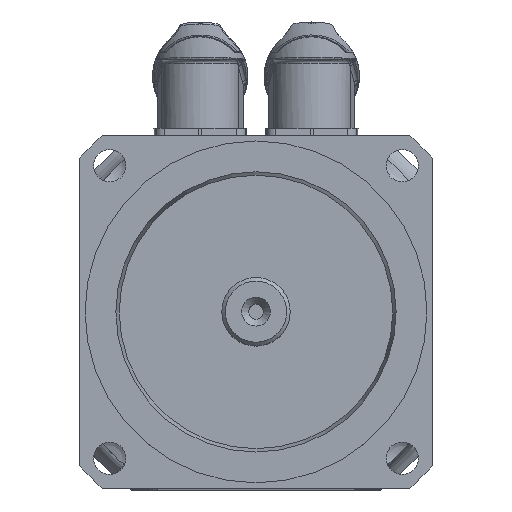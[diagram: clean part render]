
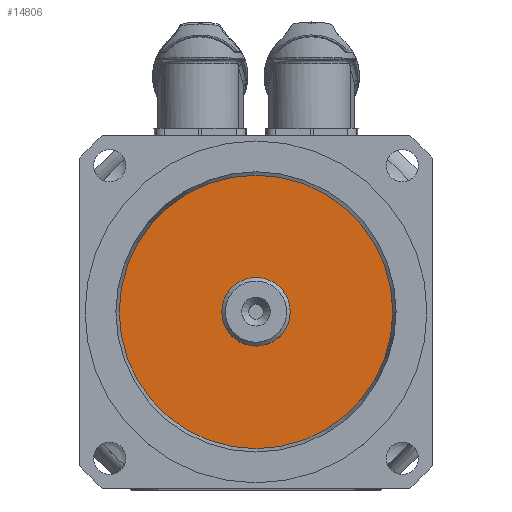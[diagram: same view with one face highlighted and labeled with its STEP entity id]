
A CAD part, top view. The second image highlights one B-rep face of the part: STEP entity #14806.
In plain terms, the highlighted planar face has unit normal (0, 0, 1).
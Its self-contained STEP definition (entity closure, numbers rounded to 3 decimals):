
#3595=FACE_BOUND($,#3841,.T.);
#3596=FACE_BOUND($,#3842,.T.);
#3841=EDGE_LOOP($,(#9391));
#3842=EDGE_LOOP($,(#9392));
#5004=CIRCLE($,#15741,9.5);
#5005=CIRCLE($,#15742,38.);
#5814=VERTEX_POINT($,#21271);
#5815=VERTEX_POINT($,#21273);
#7247=EDGE_CURVE($,#5814,#5814,#5004,.T.);
#7248=EDGE_CURVE($,#5815,#5815,#5005,.T.);
#9391=ORIENTED_EDGE($,*,*,#7247,.T.);
#9392=ORIENTED_EDGE($,*,*,#7248,.T.);
#13679=PLANE($,#15740);
#14806=ADVANCED_FACE($,(#3595,#3596),#13679,.T.);
#15740=AXIS2_PLACEMENT_3D($,#21270,#17370,#17371);
#15741=AXIS2_PLACEMENT_3D($,#21272,#17372,#17373);
#15742=AXIS2_PLACEMENT_3D($,#21274,#17374,#17375);
#17370=DIRECTION('center_axis',(0.,0.,1.));
#17371=DIRECTION('ref_axis',(1.,0.,0.));
#17372=DIRECTION('center_axis',(0.,0.,-1.));
#17373=DIRECTION('ref_axis',(-1.,0.,0.));
#17374=DIRECTION('center_axis',(0.,0.,1.));
#17375=DIRECTION('ref_axis',(1.,0.,0.));
#21270=CARTESIAN_POINT('Origin',(0.,0.,275.5));
#21271=CARTESIAN_POINT('',(9.5,0.,275.5));
#21272=CARTESIAN_POINT('Origin',(0.,0.,275.5));
#21273=CARTESIAN_POINT('',(38.,0.,275.5));
#21274=CARTESIAN_POINT('Origin',(0.,0.,275.5));
